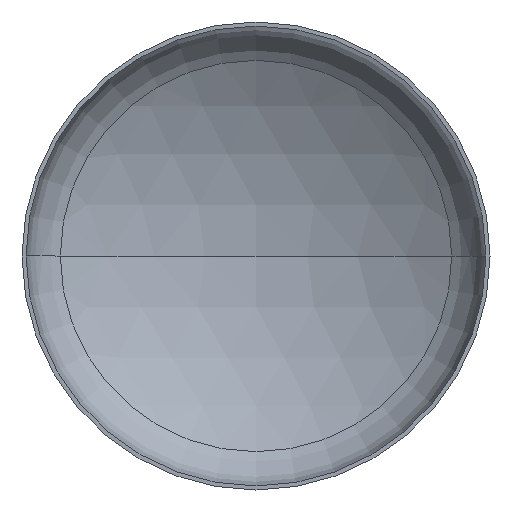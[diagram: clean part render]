
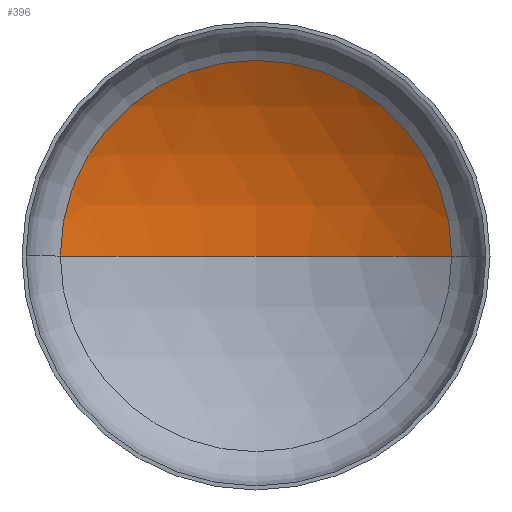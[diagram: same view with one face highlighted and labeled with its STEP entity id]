
A CAD part, front view. The second image highlights one B-rep face of the part: STEP entity #396.
In plain terms, the highlighted spherical face has radius 1280 mm.
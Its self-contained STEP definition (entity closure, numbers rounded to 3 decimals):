
#13 = DIRECTION ( 'NONE',  ( 1., 0., 0. ) ) ;
#17 = DIRECTION ( 'NONE',  ( -1., 0., 0. ) ) ;
#19 = EDGE_LOOP ( 'NONE', ( #26, #58, #405 ) ) ;
#20 = DIRECTION ( 'NONE',  ( 0., 0., -1. ) ) ;
#26 = ORIENTED_EDGE ( 'NONE', *, *, #125, .F. ) ;
#27 = CARTESIAN_POINT ( 'NONE',  ( 0., -837.351, 0. ) ) ;
#37 = AXIS2_PLACEMENT_3D ( 'NONE', #124, #289, #313 ) ;
#39 = AXIS2_PLACEMENT_3D ( 'NONE', #27, #20, #17 ) ;
#40 = AXIS2_PLACEMENT_3D ( 'NONE', #386, #246, #13 ) ;
#52 = VERTEX_POINT ( 'NONE', #369 ) ;
#58 = ORIENTED_EDGE ( 'NONE', *, *, #118, .T. ) ;
#116 = EDGE_CURVE ( 'NONE', #135, #407, #263, .T. ) ;
#118 = EDGE_CURVE ( 'NONE', #52, #135, #196, .T. ) ;
#124 = CARTESIAN_POINT ( 'NONE',  ( 0., -837.351, 0. ) ) ;
#125 = EDGE_CURVE ( 'NONE', #52, #407, #326, .T. ) ;
#135 = VERTEX_POINT ( 'NONE', #169 ) ;
#157 = CARTESIAN_POINT ( 'NONE',  ( -669.063, 253.866, 0. ) ) ;
#169 = CARTESIAN_POINT ( 'NONE',  ( 669.063, 253.866, 0. ) ) ;
#196 = CIRCLE ( 'NONE', #39, 1280. ) ;
#246 = DIRECTION ( 'NONE',  ( 0., -1., 0. ) ) ;
#263 = CIRCLE ( 'NONE', #40, 669.063 ) ;
#267 = SPHERICAL_SURFACE ( 'NONE', #364, 1280. ) ;
#273 = CARTESIAN_POINT ( 'NONE',  ( 0., -837.351, 0. ) ) ;
#275 = FACE_OUTER_BOUND ( 'NONE', #19, .T. ) ;
#289 = DIRECTION ( 'NONE',  ( 0., 0., 1. ) ) ;
#313 = DIRECTION ( 'NONE',  ( 1., 0., 0. ) ) ;
#326 = CIRCLE ( 'NONE', #37, 1280. ) ;
#364 = AXIS2_PLACEMENT_3D ( 'NONE', #273, #409, #389 ) ;
#369 = CARTESIAN_POINT ( 'NONE',  ( 0., 442.649, 0. ) ) ;
#386 = CARTESIAN_POINT ( 'NONE',  ( 0., 253.866, 0. ) ) ;
#389 = DIRECTION ( 'NONE',  ( -1., 0., 0. ) ) ;
#396 = ADVANCED_FACE ( 'NONE', ( #275 ), #267, .F. ) ;
#405 = ORIENTED_EDGE ( 'NONE', *, *, #116, .T. ) ;
#407 = VERTEX_POINT ( 'NONE', #157 ) ;
#409 = DIRECTION ( 'NONE',  ( 0., 0., -1. ) ) ;
